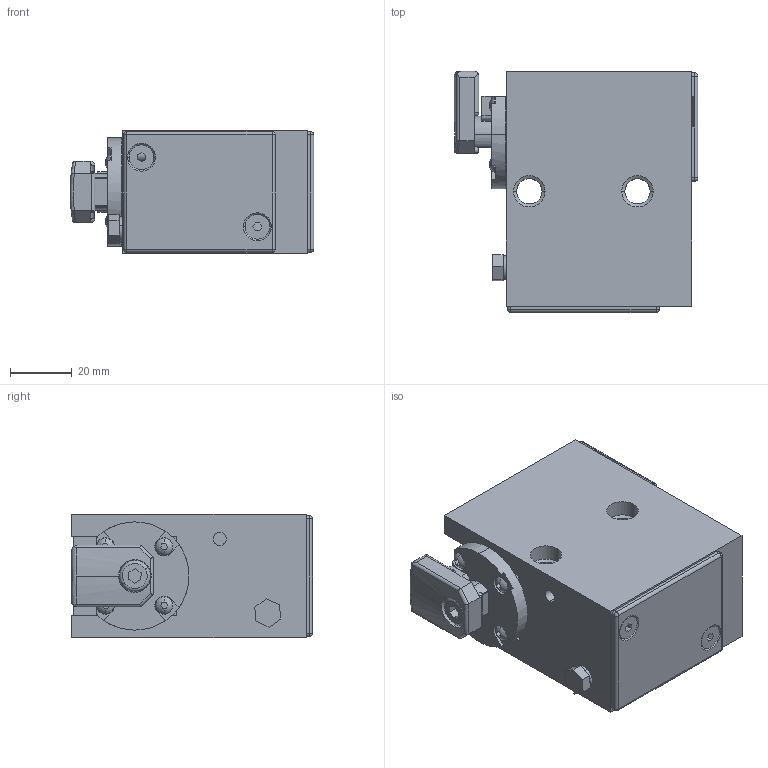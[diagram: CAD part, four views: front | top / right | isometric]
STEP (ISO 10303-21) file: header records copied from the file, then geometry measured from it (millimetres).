
FILE_DESCRIPTION (( 'STEP AP203' ), '1' );
FILE_NAME ('DAU-80-08-EW_Grundstellung.STEP', '2020-09-25T06:52:49', ( '' ), ( '' ), 'SwSTEP 2.0', 'SolidWorks 2017', '' );
FILE_SCHEMA (( 'CONFIG_CONTROL_DESIGN' ));
Length unit declared in the file: millimetre
Products named in the file (2): DAU-80-08-EW_Grundstellung
Bounding box: 78.8 x 78 x 40 mm (x, y, z)
Surface area: 39238 mm2 (no closed solid volume)
Topology: 0 solids, 17 shells, 251 faces, 757 edges, 506 vertices
Faces by surface type: plane 120, cylinder 85, sphere 16, cone 14, torus 14, bspline 2
Entity records: 8829 total; most frequent: CARTESIAN_POINT 1810, DIRECTION 1515, ORIENTED_EDGE 1293, EDGE_CURVE 749, AXIS2_PLACEMENT_3D 553, VERTEX_POINT 506, LINE 409, VECTOR 409
